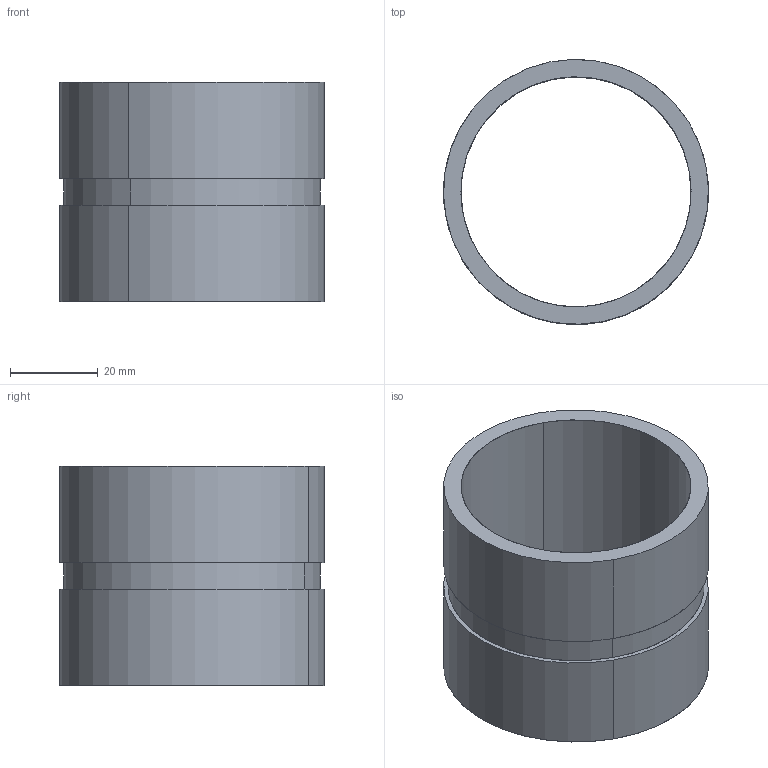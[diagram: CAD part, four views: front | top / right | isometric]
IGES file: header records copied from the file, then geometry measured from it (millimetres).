
Start section: START RECORD GO HERE.
Global section: file name: 395H 19-232-0200.igs; native system: DASSAULT SYSTEMES CATIA V5 R20 - www.3ds.com; preprocessor: CATIA Version 5 Release 20 ; author: Utente; organization: NB04-ASUS; date: 20200409.155420; units: millimetre
Bounding box: 60.31 x 60.31 x 50 mm (x, y, z)
Surface area: 19446.9 mm2 (no closed solid volume)
Topology: 0 solids, 0 shells, 12 faces, 51 edges, 55 vertices
Faces by surface type: revolution 8, plane 4
